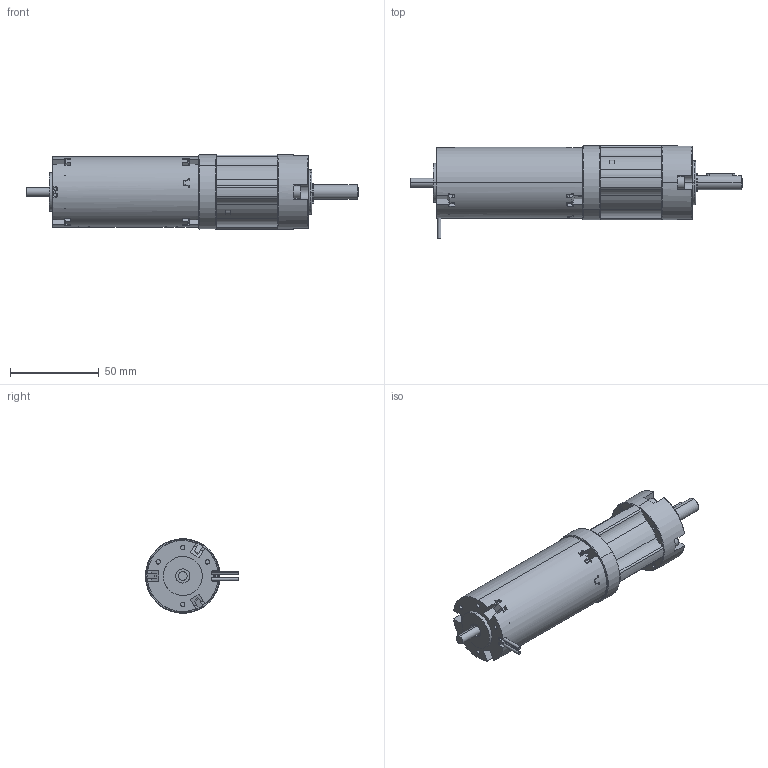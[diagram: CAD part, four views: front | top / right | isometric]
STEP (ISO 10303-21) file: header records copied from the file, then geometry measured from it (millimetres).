
FILE_DESCRIPTION (( 'STEP AP214' ), '1' );
FILE_NAME ('1.13.049_+_PK42-2etages.STEP', '2014-09-22T15:23:16', ( '' ), ( '' ), 'SwSTEP 2.0', 'SolidWorks 2013', '' );
FILE_SCHEMA (( 'AUTOMOTIVE_DESIGN' ));
Length unit declared in the file: millimetre
Products named in the file (18): bmz_1228382_1_2etage; D912_M3X8_11; 8006286_MOTORRITZEL_Z17_3; 8001288_ANLAUFSCHEIBE_1ST_14; MOTORFLANSCH_1226212_1; D912_M4X35_1; 8001289_ZAHNKRANZ_1ST_1_2etage; 3X3X16_D6885A_16; D471_8X0_8_16; 8002388_ABTRIEB_LK2_KPL_1; 8001305_LAGERBOLZEN_16; VBZ_K7841_ABTRIEB_AF0_16; DIN998_PS_8X14X1_16; 1203251_1; 8001301_LAGERFLANSCH__1; 1.13.049.401_3; 1.13.049_+_PK42-2etages
Assembly tree (25 placements, depth 4):
  1.13.049_+_PK42-2etages
    1.13.049.401_3
      1.13.049.401_3
    bmz_1228382_1_2etage
      8001301_LAGERFLANSCH__1
      1203251_1  x2
      DIN998_PS_8X14X1_16  x2
      8002388_ABTRIEB_LK2_KPL_1
        VBZ_K7841_ABTRIEB_AF0_16
        8001305_LAGERBOLZEN_16  x3
      D471_8X0_8_16
      3X3X16_D6885A_16
      8001289_ZAHNKRANZ_1ST_1_2etage
      D912_M4X35_1  x4
      MOTORFLANSCH_1226212_1
      8001288_ANLAUFSCHEIBE_1ST_14
      8006286_MOTORRITZEL_Z17_3
      D912_M3X8_11  x2
Bounding box: 187.3 x 52.44 x 42 mm (x, y, z)
Volume: 25378.6 mm3; surface area: 58225.4 mm2
Topology: 12 solids, 37 shells, 1684 faces, 4609 edges, 2986 vertices
Faces by surface type: cylinder 764, plane 613, cone 232, bspline 75
Entity records: 60082 total; most frequent: CARTESIAN_POINT 14962, ORIENTED_EDGE 8571, DIRECTION 8346, EDGE_CURVE 4310, AXIS2_PLACEMENT_3D 3088, VERTEX_POINT 2806, LINE 2170, VECTOR 2170
